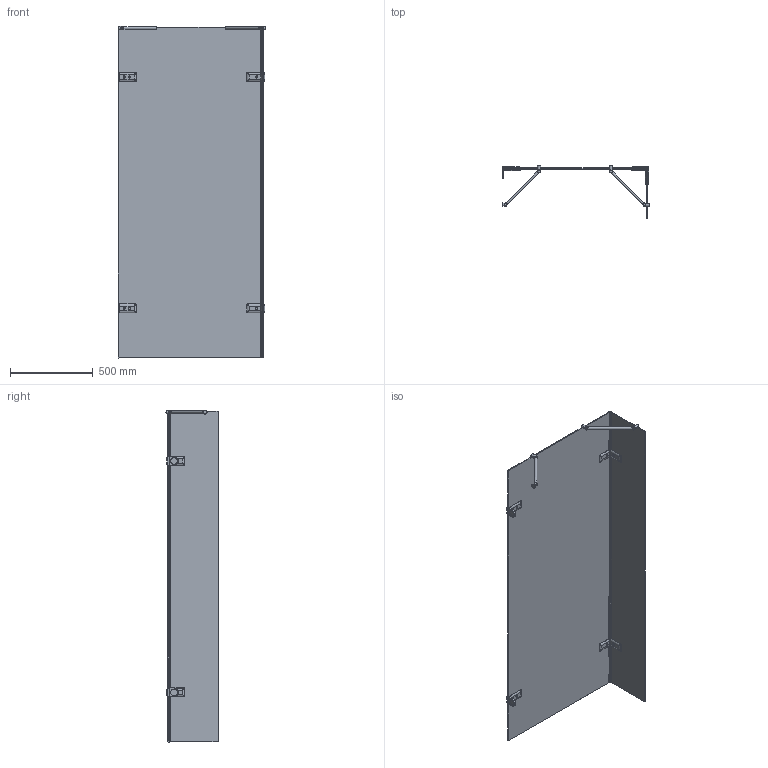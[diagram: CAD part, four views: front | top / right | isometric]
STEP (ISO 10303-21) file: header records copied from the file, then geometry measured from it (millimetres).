
FILE_DESCRIPTION(/* description */ (''),/* implementation_level */ '2;1');
FILE_NAME(/* name */ 'D:\2\TREND DOOR GK-862NG\TREND DOOR GK-862NG правая модель\TREND DOOR GK-862NG ПРАВАЯ-3D.stp',/* time_stamp */ '2020-04-21T19:09:06+03:00',/* author */ ('User'),/* organization */ (''),/* preprocessor_version */ 'ST-DEVELOPER v15.2',/* originating_system */ 'Autodesk Inventor 2014',/* authorisation */ '');
FILE_SCHEMA (('AUTOMOTIVE_DESIGN { 1 0 10303 214 3 1 1 }'));
Length unit declared in the file: millimetre
Products named in the file (1): TREND DOOR GK-862NG ПРАВАЯ-3
D
Bounding box: 893.5 x 315.5 x 2008.49 mm (x, y, z)
Volume: 14635980.7 mm3; surface area: 4880612 mm2
Topology: 4 solids, 18 shells, 378 faces, 946 edges, 595 vertices
Faces by surface type: plane 182, cylinder 105, bspline 52, torus 23, sphere 10, cone 6
Full cylindrical faces by diameter (mm): 4.917 x4, 13 x8, 15 x2, 16 x8, 20 x4, 26 x1, 28 x2, 28.5 x2, 40 x2
Entity records: 14912 total; most frequent: CARTESIAN_POINT 6089, ORIENTED_EDGE 1690, DIRECTION 1646, EDGE_CURVE 845, AXIS2_PLACEMENT_3D 594, VERTEX_POINT 573, EDGE_LOOP 478, LINE 458
